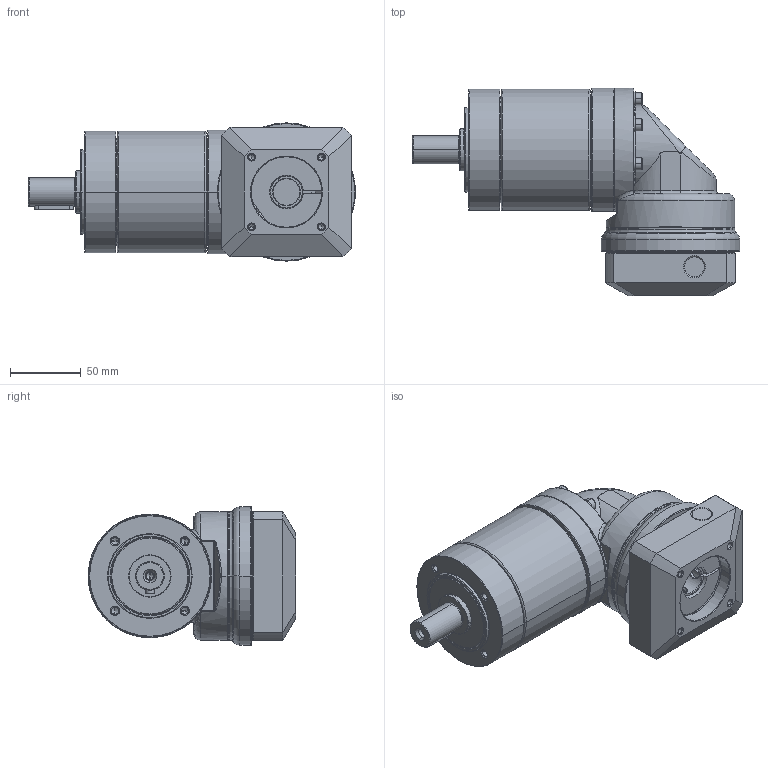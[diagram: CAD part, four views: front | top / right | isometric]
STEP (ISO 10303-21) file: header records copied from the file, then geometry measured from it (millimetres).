
FILE_DESCRIPTION((''),'2;1');
FILE_NAME('PG2R-080_2ST_19-P0411400101_ASM','2016-04-22T',('d01943'),(''),'PRO/ENGINEER BY PARAMETRIC TECHNOLOGY CORPORATION, 2008410','PRO/ENGINEER BY PARAMETRIC TECHNOLOGY CORPORATION, 2008410','');
FILE_SCHEMA(('CONFIG_CONTROL_DESIGN'));
Length unit declared in the file: millimetre
Products named in the file (12): P1325310001; P0251300001; P0350301103; P1349300001; P1017300001; P0713301001; P0503400008; P1350300101; P0411400101; P1702500001; 2111BA05025; PG2R-080_2ST_19-P0411400101_ASM
Assembly tree (16 placements, depth 2):
  PG2R-080_2ST_19-P0411400101_ASM
    P1325310001
    P0251300001
    P0350301103
    P1349300001
    P1017300001
    P0713301001
    P0503400008
    P1350300101
    P0411400101
    P1702500001
    2111BA05025  x6
Bounding box: 232 x 147.25 x 98 mm (x, y, z)
Volume: 871744 mm3; surface area: 214468.9 mm2
Topology: 16 solids, 17 shells, 786 faces, 1716 edges, 996 vertices
Faces by surface type: cylinder 246, cone 216, plane 192, torus 100, bspline 32
Entity records: 22959 total; most frequent: CARTESIAN_POINT 8991, DIRECTION 3121, ORIENTED_EDGE 2680, EDGE_CURVE 1340, AXIS2_PLACEMENT_3D 1320, VERTEX_POINT 796, EDGE_LOOP 706, CIRCLE 703
